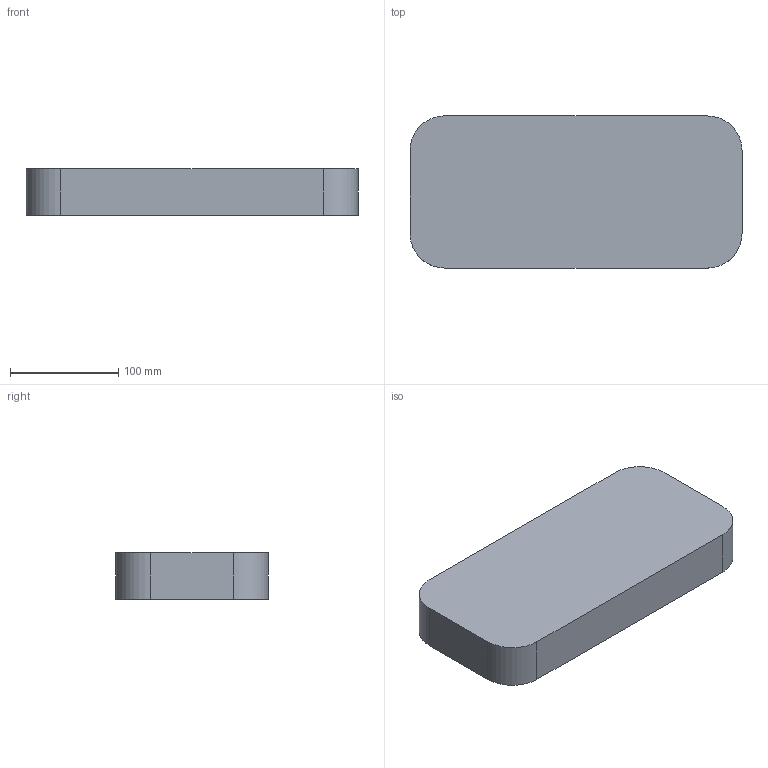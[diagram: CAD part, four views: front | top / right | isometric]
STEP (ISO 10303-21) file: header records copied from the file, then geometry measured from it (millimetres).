
FILE_DESCRIPTION(/* description */ (''),/* implementation_level */ '2;1');
FILE_NAME(/* name */ 'AoL-System-Power-Supply-Wall:Ceiling',/* time_stamp */ '2019-09-25T17:22:33+02:00',/* author */ (''),/* organization */ (''),/* preprocessor_version */ 'ST-DEVELOPER v15',/* originating_system */ '',/* authorisation */ '');
FILE_SCHEMA (('AUTOMOTIVE_DESIGN'));
Length unit declared in the file: millimetre
Products named in the file (1): Document
Bounding box: 306.39 x 140.37 x 42.5 mm (x, y, z)
Volume: 1789705.6 mm3; surface area: 120146 mm2
Topology: 1 solids, 1 shells, 15 faces, 34 edges, 22 vertices
Faces by surface type: bspline 12, plane 3
Entity records: 462 total; most frequent: CARTESIAN_POINT 257, ORIENTED_EDGE 68, EDGE_CURVE 34, VERTEX_POINT 22, EDGE_LOOP 16, ADVANCED_FACE 15, FACE_OUTER_BOUND 15, DIRECTION 7
